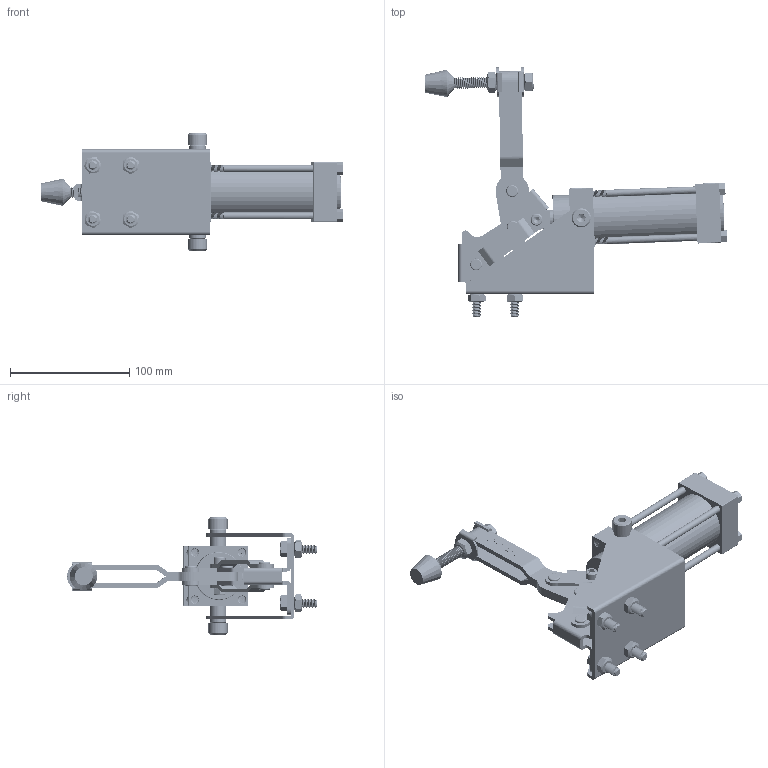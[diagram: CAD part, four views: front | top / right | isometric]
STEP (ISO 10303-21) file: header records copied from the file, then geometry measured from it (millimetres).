
FILE_DESCRIPTION(/* description */ ('STEP AP203'),/* implementation_level */ '2;1');
FILE_NAME(/* name */ 'D:\Vault_2016\Projekty\STRONA\Pneumatic toggle clamp\CH-12265-A\CH-12265-A_OTWARTY.stp',/* time_stamp */ '2019-01-29T11:46:54+01:00',/* author */ ('user'),/* organization */ ('Î¢ÈíÖÐ¹ú'),/* preprocessor_version */ 'ST-DEVELOPER v17.2',/* originating_system */ 'Autodesk Inventor 2019',/* authorisation */ '');
FILE_SCHEMA (('AUTOMOTIVE_DESIGN { 1 0 10303 214 3 1 1 }'));
Products named in the file (22): CH-12265-A_OTWARTY; CH-12265-A-03_Ä¬ÈÏ; CH-12265-A-01_Ä¬ÈÏ; 20RIVET_Ä¬ÈÏ; CH-FC-38312_Ä¬ÈÏ; CH-12265-06_Ä¬ÈÏ; CH-12265-A-02_Ä¬ÈÏ; CH-12265-02_Ä¬ÈÏ; CH-FW-380_Ä¬ÈÏ; 38312_Ä¬ÈÏ; Air cylinder-2_Ä¬ÈÏ; M8_Ä¬ÈÏ; CH-12265-01_Ä¬ÈÏ; Air cylinder-1_Ä¬ÈÏ; M8-25_Ä¬ÈÏ; Air cylinder-3_Ä¬ÈÏ; M10-20_Ä¬ÈÏ; CH-12265-05_Ä¬ÈÏ; CH-12265-A-04_Ä¬ÈÏ; M6-25_Ä¬ÈÏ; 14RIVET_Ä¬ÈÏ; M6NUT_Ä¬ÈÏ
Assembly tree (36 placements, depth 2):
  CH-12265-A_OTWARTY
    M10-20_Ä¬ÈÏ  x2
    M8-25_Ä¬ÈÏ  x4
    CH-FW-380_Ä¬ÈÏ  x2
    Air cylinder-3_Ä¬ÈÏ  x4
    CH-12265-A-03_Ä¬ÈÏ
    CH-12265-A-01_Ä¬ÈÏ
    38312_Ä¬ÈÏ  x2
    M8_Ä¬ÈÏ  x4
    CH-12265-06_Ä¬ÈÏ  x2
    20RIVET_Ä¬ÈÏ
    CH-FC-38312_Ä¬ÈÏ
    CH-12265-A-04_Ä¬ÈÏ  x2
    CH-12265-A-02_Ä¬ÈÏ
    CH-12265-02_Ä¬ÈÏ
    14RIVET_Ä¬ÈÏ  x2
    Air cylinder-2_Ä¬ÈÏ
    CH-12265-01_Ä¬ÈÏ
    Air cylinder-1_Ä¬ÈÏ
    CH-12265-05_Ä¬ÈÏ
    M6-25_Ä¬ÈÏ
    M6NUT_Ä¬ÈÏ
Bounding box: 253.52 x 209.39 x 98 mm (x, y, z)
Volume: 404248.7 mm3; surface area: 164263.8 mm2
Topology: 38 solids, 39 shells, 1116 faces, 3246 edges, 2259 vertices
Faces by surface type: plane 519, cylinder 321, bspline 145, cone 119, torus 12
Full cylindrical faces by diameter (mm): 2.482 x1, 2.887 x1, 6 x5, 6.1 x1, 6.2 x3, 6.4 x15, 6.5 x16, 8 x68, 8.4 x2, 8.7 x8, 9.5 x53, 9.6 x3, 9.8 x2, 10 x27, 10.1 x2, 13.856 x1, 14 x2, 14.1 x2, 16 x4, 40 x2, 45 x1
Entity records: 73005 total; most frequent: CARTESIAN_POINT 51572, ORIENTED_EDGE 4702, DIRECTION 3703, EDGE_CURVE 2351, VERTEX_POINT 1638, AXIS2_PLACEMENT_3D 1291, LINE 1121, VECTOR 1121
